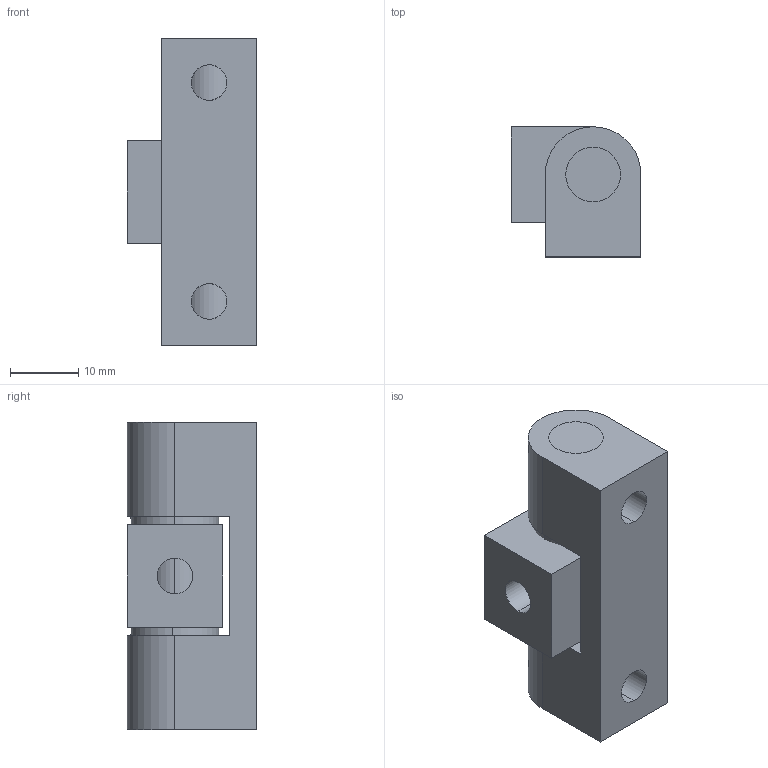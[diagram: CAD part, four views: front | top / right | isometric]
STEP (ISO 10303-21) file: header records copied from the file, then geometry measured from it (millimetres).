
FILE_DESCRIPTION (( 'STEP AP203' ), '1' );
FILE_NAME ('CL222Z1A001.STEP', '2016-07-14T02:21:03', ( 'master' ), ( 'Microsoft' ), 'SwSTEP 2.0', 'SolidWorks 2014', '' );
FILE_SCHEMA (( 'CONFIG_CONTROL_DESIGN' ));
Length unit declared in the file: millimetre
Products named in the file (5): CL222隅蝓蟈; CL222雄蝓蟈; CL222垫片_标准型弹簧垫圈8; CL222蛌粣; CL222Z1A001
Assembly tree (5 placements, depth 2):
  CL222Z1A001
    CL222隅蝓蟈
    CL222雄蝓蟈
    CL222垫片_标准型弹簧垫圈8  x2
    CL222蛌粣
Bounding box: 19 x 19 x 45 mm (x, y, z)
Volume: 11280.8 mm3; surface area: 7387.8 mm2
Topology: 5 solids, 5 shells, 52 faces, 126 edges, 84 vertices
Faces by surface type: cylinder 29, plane 23
Entity records: 1993 total; most frequent: CARTESIAN_POINT 412, DIRECTION 232, ORIENTED_EDGE 204, EDGE_CURVE 102, AXIS2_PLACEMENT_3D 90, VERTEX_POINT 68, EDGE_LOOP 54, LINE 52
